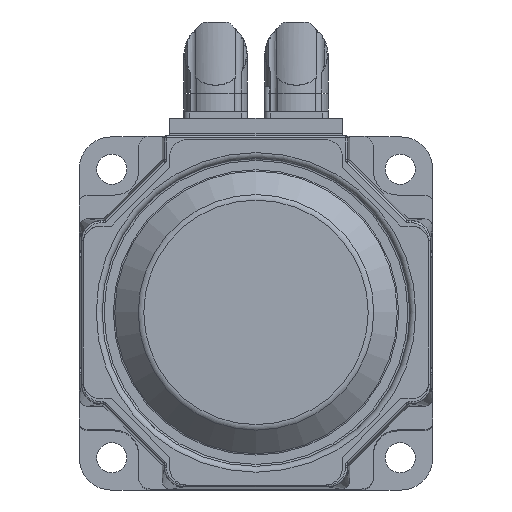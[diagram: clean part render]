
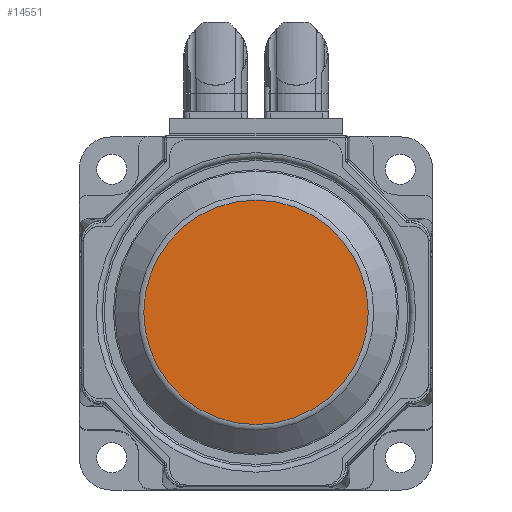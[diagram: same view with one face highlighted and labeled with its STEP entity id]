
A CAD part, top view. The second image highlights one B-rep face of the part: STEP entity #14551.
In plain terms, the highlighted planar face has unit normal (0, 0, 1).
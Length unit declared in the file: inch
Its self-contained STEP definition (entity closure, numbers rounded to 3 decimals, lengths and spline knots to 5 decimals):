
#14531=CARTESIAN_POINT('',(0.0,1.78622,1.69));
#14532=VERTEX_POINT('',#14531);
#14533=CARTESIAN_POINT('',(0.0,0.0,1.69));
#14534=DIRECTION('',(0.0,0.0,-1.0));
#14535=DIRECTION('',(0.0,1.0,0.0));
#14536=AXIS2_PLACEMENT_3D('',#14533,#14534,#14535);
#14537=CIRCLE('',#14536,1.78622);
#14538=EDGE_CURVE('',#14532,#14532,#14537,.T.);
#14543=CARTESIAN_POINT('',(0.0,0.89311,1.69));
#14544=DIRECTION('',(0.0,0.0,1.0));
#14545=DIRECTION('',(1.0,0.0,0.0));
#14546=AXIS2_PLACEMENT_3D('',#14543,#14544,#14545);
#14547=PLANE('',#14546);
#14548=ORIENTED_EDGE('',*,*,#14538,.F.);
#14549=EDGE_LOOP('',(#14548));
#14550=FACE_OUTER_BOUND('',#14549,.T.);
#14551=ADVANCED_FACE('',(#14550),#14547,.T.);
